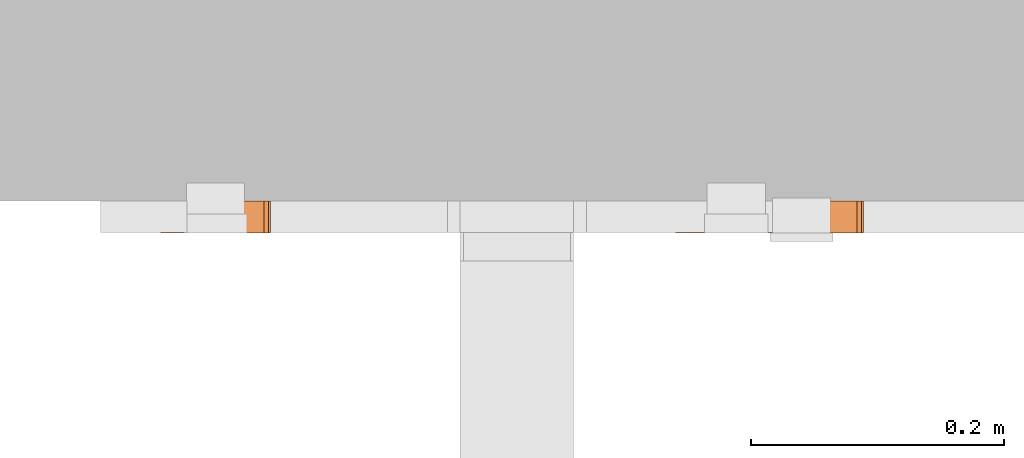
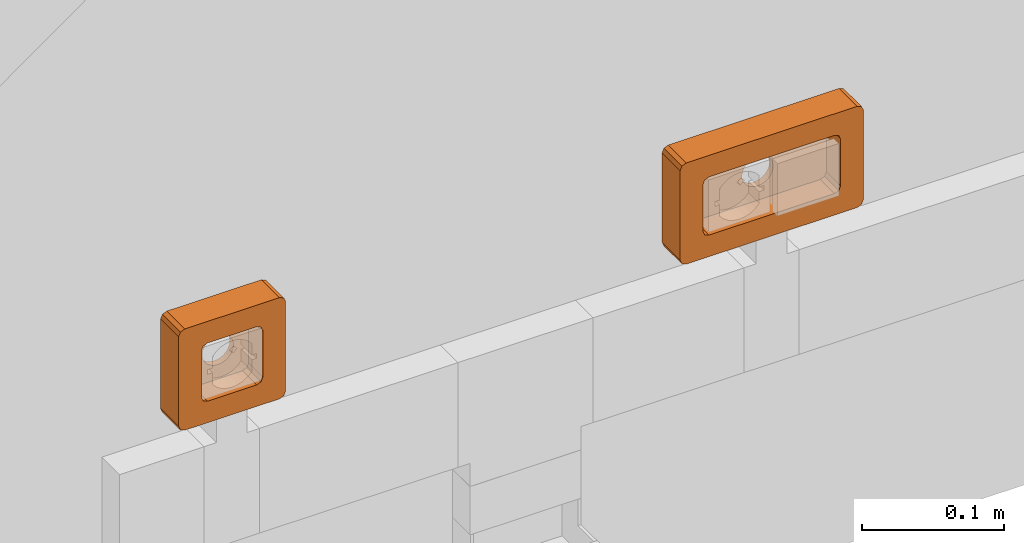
# One storey, part 42 of 87: 2 proxies.
"""IFC2X3 building model written with IfcOpenShell, lengths in millimetres."""

from ifc_helpers import new_model, entity, si_unit, converted_unit, derived_unit, direction, frame, origin, place, context, subcontext, project, spatial, faceted_brep, source, transform, mapped, material, type_object, type_shapes, element, save


model = new_model("IFC2X3")

# Units and contexts
model_context = context("Model", 3, precision=0.01, world=origin(), true_north=direction((6.12303176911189e-17, 1.0)))
body_context = subcontext(model_context, "Body", "Model", "MODEL_VIEW")
ifc_project = project(units=[si_unit("LENGTHUNIT", "METRE", prefix="MILLI"), si_unit("AREAUNIT", "SQUARE_METRE"), si_unit("VOLUMEUNIT", "CUBIC_METRE"), converted_unit("PLANEANGLEUNIT", "DEGREE", entity("IfcRatioMeasure", 0.0174532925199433), si_unit("PLANEANGLEUNIT", "RADIAN"), dimensions=[0, 0, 0, 0, 0, 0, 0]), si_unit("MASSUNIT", "GRAM", prefix="KILO"), derived_unit("MASSDENSITYUNIT", [(si_unit("MASSUNIT", "GRAM", prefix="KILO"), 1), (si_unit("LENGTHUNIT", "METRE"), -3)]), si_unit("TIMEUNIT", "SECOND"), si_unit("FREQUENCYUNIT", "HERTZ"), si_unit("THERMODYNAMICTEMPERATUREUNIT", "DEGREE_CELSIUS"), derived_unit("THERMALTRANSMITTANCEUNIT", [(si_unit("MASSUNIT", "GRAM", prefix="KILO"), 1), (si_unit("THERMODYNAMICTEMPERATUREUNIT", "KELVIN"), -1), (si_unit("TIMEUNIT", "SECOND"), -3)]), derived_unit("VOLUMETRICFLOWRATEUNIT", [(si_unit("LENGTHUNIT", "METRE"), 3), (si_unit("TIMEUNIT", "SECOND"), -1)]), si_unit("ELECTRICCURRENTUNIT", "AMPERE"), si_unit("ELECTRICVOLTAGEUNIT", "VOLT"), si_unit("POWERUNIT", "WATT"), si_unit("FORCEUNIT", "NEWTON", prefix="KILO"), si_unit("ILLUMINANCEUNIT", "LUX"), si_unit("LUMINOUSFLUXUNIT", "LUMEN"), si_unit("LUMINOUSINTENSITYUNIT", "CANDELA"), derived_unit("USERDEFINED", [(si_unit("MASSUNIT", "GRAM", prefix="KILO"), -1), (si_unit("LENGTHUNIT", "METRE"), -2), (si_unit("TIMEUNIT", "SECOND"), 3), (si_unit("LUMINOUSFLUXUNIT", "LUMEN"), 1)]), derived_unit("LINEARVELOCITYUNIT", [(si_unit("LENGTHUNIT", "METRE"), 1), (si_unit("TIMEUNIT", "SECOND"), -1)]), si_unit("PRESSUREUNIT", "PASCAL"), derived_unit("USERDEFINED", [(si_unit("LENGTHUNIT", "METRE"), -2), (si_unit("MASSUNIT", "GRAM", prefix="KILO"), 1), (si_unit("TIMEUNIT", "SECOND"), -2)])], contexts=[model_context])

# Site, building, storey
site_placement = place(None, origin())
site = spatial("IfcSite", under=ifc_project, at=site_placement, Name="Default", CompositionType="ELEMENT")
building_placement = place(site_placement, origin())
building = spatial("IfcBuilding", under=site, at=building_placement, Name="Наименование здания", CompositionType="ELEMENT")
storey_placement = place(building_placement, origin())
storey = spatial("IfcBuildingStorey", under=building, at=storey_placement, Name="Этаж 01", CompositionType="ELEMENT", Elevation=0.0)

# Proxies
ifc_material = material(Name="DKC_Пластик_Белый")
building_element_proxy_type_1 = type_object("IfcBuildingElementProxyType", Name="Белая", PredefinedType="NOTDEFINED", material=ifc_material)
shared_shape_1 = source(origin(), body_context, "Body", "Brep", [
    faceted_brep([(74.5000000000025, 0.0, 38.5000000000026), (73.0355339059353, 0.0, 42.0355339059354), (69.5000000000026, 0.0, 43.5000000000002), (54.5355339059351, 0.0, 23.5355339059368), (56.0, 0.0, 20.0), (56.0, 0.0, -20.0), (74.5000000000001, 0.0, -38.5000000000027), (51.0, 0.0, 25.0), (-51.0, 0.0, 25.0), (-69.5000000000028, 0.0, 43.5000000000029), (-54.5355339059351, 0.0, 23.5355339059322), (-74.5000000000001, 0.0, 38.5000000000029), (-73.0355339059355, 0.0, 42.0355339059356), (-56.0, 0.0, 20.0), (-56.0, 0.0, -20.0), (-74.5000000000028, 0.0, -38.5000000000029), (-54.5355339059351, 0.0, -23.5355339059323), (-69.5000000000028, 0.0, -43.5000000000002), (-73.0355339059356, 0.0, -42.0355339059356), (-51.0, 0.0, -25.0), (69.5000000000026, 0.0, -43.5000000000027), (73.0355339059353, 0.0, -42.0355339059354), (54.5355339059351, 0.0, -23.5355339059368), (51.0, 0.0, -25.0), (-73.0355339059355, 25.3999999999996, 42.0355339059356), (-69.5000000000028, 25.3999999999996, 43.5000000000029), (-74.5000000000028, 25.3999999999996, 38.5000000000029), (-12.2672579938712, 25.3999999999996, 3.28700187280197), (-10.9985226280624, 25.3999999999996, 6.34999999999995), (-8.9802561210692, 25.3999999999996, 8.98025612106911), (-6.35000000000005, 25.3999999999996, 10.9985226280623), (-3.28700187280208, 25.3999999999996, 12.2672579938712), (0.0, 25.3999999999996, 12.7), (69.5000000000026, 25.3999999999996, 43.5000000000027), (3.28700187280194, 25.3999999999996, 12.2672579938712), (6.34999999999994, 25.3999999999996, 10.9985226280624), (8.9802561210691, 25.3999999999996, 8.98025612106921), (10.9985226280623, 25.3999999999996, 6.35000000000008), (12.2672579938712, 25.3999999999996, 3.2870018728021), (74.5000000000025, 25.3999999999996, 38.5000000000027), (73.0355339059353, 25.3999999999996, 42.0355339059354), (12.7, 25.3999999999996, 0.0), (74.5000000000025, 25.3999999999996, -38.5000000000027), (12.2672579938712, 25.3999999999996, -3.28700187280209), (69.5000000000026, 25.3999999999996, -43.5000000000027), (73.0355339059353, 25.3999999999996, -42.0355339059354), (10.9985226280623, 25.3999999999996, -6.35000000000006), (8.9802561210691, 25.3999999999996, -8.98025612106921), (6.34999999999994, 25.3999999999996, -10.9985226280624), (3.28700187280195, 25.3999999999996, -12.2672579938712), (0.0, 25.3999999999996, -12.7), (-69.5000000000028, 25.3999999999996, -43.5000000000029), (-3.28700187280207, 25.3999999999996, -12.2672579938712), (-6.35000000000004, 25.3999999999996, -10.9985226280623), (-8.98025612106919, 25.3999999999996, -8.98025612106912), (-10.9985226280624, 25.3999999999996, -6.34999999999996), (-12.2672579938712, 25.3999999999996, -3.28700187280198), (-74.5000000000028, 25.3999999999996, -38.5000000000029), (-73.0355339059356, 25.3999999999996, -42.0355339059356), (-12.7, 25.3999999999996, 0.0), (-56.0, 20.0, 20.0), (-51.0, 20.0, 25.0), (-54.5355339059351, 20.0, 23.5355339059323), (-12.2672579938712, 20.0, 3.28700187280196), (-12.7, 20.0, 0.0), (-56.0, 20.0, -20.0), (-12.2672579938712, 20.0, -3.28700187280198), (-51.0, 20.0, -25.0), (-54.5355339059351, 20.0, -23.5355339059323), (-10.9985226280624, 20.0, -6.34999999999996), (-8.98025612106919, 20.0, -8.98025612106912), (-6.35000000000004, 20.0, -10.9985226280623), (-3.28700187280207, 20.0, -12.2672579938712), (0.0, 20.0, -12.7), (51.0, 20.0, -25.0), (3.28700187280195, 20.0, -12.2672579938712), (6.34999999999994, 20.0, -10.9985226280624), (8.98025612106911, 20.0, -8.9802561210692), (10.9985226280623, 20.0, -6.35000000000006), (12.2672579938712, 20.0, -3.28700187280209), (56.0, 20.0, -20.0), (54.5355339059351, 20.0, -23.5355339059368), (12.7, 20.0, 0.0), (56.0, 20.0, 20.0), (12.2672579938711, 20.0, 3.2870018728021), (51.0, 20.0, 25.0), (54.5355339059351, 20.0, 23.5355339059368), (0.0, 20.0, 12.7), (10.9985226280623, 20.0, 6.35000000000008), (8.9802561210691, 20.0, 8.98025612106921), (6.34999999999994, 20.0, 10.9985226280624), (3.28700187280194, 20.0, 12.2672579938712), (-10.9985226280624, 20.0, 6.34999999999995), (-8.9802561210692, 20.0, 8.98025612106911), (-6.35000000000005, 20.0, 10.9985226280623), (-3.28700187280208, 20.0, 12.2672579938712)], [[[0, 1, 2]], [[0, 2, 3]], [[3, 4, 0]], [[0, 4, 5]], [[6, 0, 5]], [[7, 3, 2]], [[2, 8, 7]], [[8, 2, 9]], [[10, 8, 9]], [[9, 11, 10]], [[9, 12, 11]], [[13, 10, 11]], [[13, 11, 14]], [[14, 11, 15]], [[16, 14, 15]], [[15, 17, 16]], [[17, 15, 18]], [[19, 16, 17]], [[19, 17, 20]], [[6, 20, 21]], [[20, 6, 22]], [[22, 23, 20]], [[20, 23, 19]], [[5, 22, 6]], [[24, 25, 26]], [[27, 26, 25]], [[25, 28, 27]], [[29, 28, 25]], [[30, 29, 25]], [[31, 30, 25]], [[32, 31, 25]], [[25, 33, 32]], [[34, 32, 33]], [[35, 34, 33]], [[35, 33, 36]], [[37, 36, 33]], [[33, 38, 37]], [[39, 38, 33]], [[33, 40, 39]], [[38, 39, 41]], [[41, 39, 42]], [[43, 41, 42]], [[42, 44, 43]], [[44, 42, 45]], [[46, 43, 44]], [[46, 44, 47]], [[48, 47, 44]], [[48, 44, 49]], [[50, 49, 44]], [[50, 44, 51]], [[51, 52, 50]], [[53, 52, 51]], [[54, 53, 51]], [[55, 54, 51]], [[56, 55, 51]], [[51, 57, 56]], [[51, 58, 57]], [[59, 57, 26]], [[57, 59, 56]], [[26, 27, 59]], [[9, 2, 33, 25]], [[9, 25, 24, 12]], [[24, 26, 11, 12]], [[15, 11, 26, 57]], [[15, 57, 58, 18]], [[58, 51, 17, 18]], [[20, 17, 51, 44]], [[20, 44, 45, 21]], [[45, 42, 6, 21]], [[0, 6, 42, 39]], [[0, 39, 40, 1]], [[40, 33, 2, 1]], [[60, 61, 62]], [[61, 60, 63]], [[64, 63, 60]], [[60, 65, 64]], [[66, 64, 65]], [[66, 65, 67]], [[65, 68, 67]], [[67, 69, 66]], [[67, 70, 69]], [[67, 71, 70]], [[67, 72, 71]], [[73, 72, 67]], [[67, 74, 73]], [[74, 75, 73]], [[75, 74, 76]], [[74, 77, 76]], [[77, 74, 78]], [[74, 79, 78]], [[79, 74, 80]], [[81, 80, 74]], [[80, 82, 79]], [[80, 83, 82]], [[82, 83, 84]], [[85, 84, 83]], [[83, 86, 85]], [[87, 85, 61]], [[88, 84, 85]], [[85, 89, 88]], [[89, 85, 90]], [[85, 91, 90]], [[85, 87, 91]], [[63, 92, 61]], [[61, 92, 93]], [[61, 93, 94]], [[61, 94, 95]], [[61, 95, 87]], [[85, 7, 8, 61]], [[10, 62, 61, 8]], [[13, 60, 62, 10]], [[60, 13, 14, 65]], [[16, 68, 65, 14]], [[19, 67, 68, 16]], [[67, 19, 23, 74]], [[22, 81, 74, 23]], [[5, 80, 81, 22]], [[80, 5, 4, 83]], [[3, 86, 83, 4]], [[7, 85, 86, 3]], [[59, 64, 66, 56]], [[56, 66, 69, 55]], [[53, 54, 70, 71]], [[70, 54, 55, 69]], [[52, 53, 71, 72]], [[52, 72, 73, 50]], [[50, 73, 75, 49]], [[49, 75, 76, 48]], [[46, 47, 77, 78]], [[77, 47, 48, 76]], [[43, 46, 78, 79]], [[43, 79, 82, 41]], [[41, 82, 84, 38]], [[38, 84, 88, 37]], [[35, 36, 89, 90]], [[89, 36, 37, 88]], [[34, 35, 90, 91]], [[34, 91, 87, 32]], [[32, 87, 95, 31]], [[31, 95, 94, 30]], [[28, 29, 93, 92]], [[93, 29, 30, 94]], [[27, 28, 92, 63]], [[27, 63, 64, 59]]]),
])
type_shapes(building_element_proxy_type_1, [shared_shape_1])
proxy_1_placement = place(storey_placement, frame((-15207.2658098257, -3998.28925968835, 350.0)))
element("IfcBuildingElementProxy", 1, at=proxy_1_placement, inside=storey, type_object=building_element_proxy_type_1, material=ifc_material, Name="КНС_КоробкаМонтажнаяПод4МодуляЭлектроустановочныхИзделийPDD-N120_ILF_DKC:Белая", ObjectType="Белая", context=body_context, shape_type="MappedRepresentation", body=[
    mapped(shared_shape_1, transform((0.0, 0.0, 0.0), scale=1.0)),
])
building_element_proxy_type_2 = type_object("IfcBuildingElementProxyType", Name="Белая", PredefinedType="NOTDEFINED", material=ifc_material)
shared_shape_2 = source(origin(), body_context, "Body", "Brep", [
    faceted_brep([(43.5000000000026, 0.0, 38.4999999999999), (42.0355339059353, 0.0, 42.0355339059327), (38.5000000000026, 0.0, 43.4999999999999), (23.5355339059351, 0.0, 23.5355339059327), (25.0, 0.0, 20.0), (25.0, 0.0, -20.0), (43.5000000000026, 0.0, -38.4999999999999), (20.0, 0.0, 25.0), (-20.0, 0.0, 25.0), (-38.5000000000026, 0.0, 43.4999999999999), (-23.5355339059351, 0.0, 23.5355339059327), (-43.5000000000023, 0.0, 38.4999999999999), (-42.0355339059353, 0.0, 42.0355339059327), (-25.0, 0.0, 20.0), (-25.0, 0.0, -20.0), (-43.5000000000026, 0.0, -38.4999999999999), (-23.5355339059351, 0.0, -23.5355339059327), (-38.5000000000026, 0.0, -43.4999999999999), (-42.0355339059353, 0.0, -42.0355339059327), (-20.0, 0.0, -25.0), (38.5000000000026, 0.0, -43.4999999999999), (42.0355339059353, 0.0, -42.0355339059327), (23.5355339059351, 0.0, -23.5355339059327), (20.0, 0.0, -25.0), (-42.0355339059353, 25.3999999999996, 42.0355339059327), (-38.5000000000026, 25.3999999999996, 43.4999999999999), (-43.5000000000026, 25.3999999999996, 38.4999999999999), (-8.98025612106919, 25.3999999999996, 8.98025612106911), (-6.35000000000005, 25.3999999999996, 10.9985226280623), (-3.28700187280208, 25.3999999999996, 12.2672579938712), (0.0, 25.3999999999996, 12.7), (38.5000000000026, 25.3999999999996, 43.4999999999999), (3.28700187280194, 25.3999999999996, 12.2672579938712), (6.34999999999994, 25.3999999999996, 10.9985226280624), (8.9802561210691, 25.3999999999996, 8.98025612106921), (43.5000000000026, 25.3999999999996, 38.4999999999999), (42.0355339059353, 25.3999999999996, 42.0355339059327), (10.9985226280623, 25.3999999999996, 6.35000000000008), (12.2672579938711, 25.3999999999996, 3.2870018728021), (12.7, 25.3999999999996, 0.0), (43.5000000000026, 25.3999999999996, -38.4999999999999), (12.2672579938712, 25.3999999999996, -3.28700187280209), (10.9985226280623, 25.3999999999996, -6.35000000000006), (8.98025612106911, 25.3999999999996, -8.98025612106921), (38.5000000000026, 25.3999999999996, -43.4999999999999), (42.0355339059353, 25.3999999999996, -42.0355339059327), (6.34999999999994, 25.3999999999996, -10.9985226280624), (3.28700187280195, 25.3999999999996, -12.2672579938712), (0.0, 25.3999999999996, -12.7), (-38.5000000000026, 25.3999999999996, -43.4999999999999), (-3.28700187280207, 25.3999999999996, -12.2672579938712), (-6.35000000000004, 25.3999999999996, -10.9985226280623), (-8.98025612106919, 25.3999999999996, -8.98025612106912), (-43.5000000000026, 25.3999999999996, -38.4999999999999), (-42.0355339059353, 25.3999999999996, -42.0355339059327), (-12.7, 25.3999999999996, 0.0), (-12.2672579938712, 25.3999999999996, -3.28700187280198), (-10.9985226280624, 25.3999999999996, -6.34999999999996), (-10.9985226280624, 25.3999999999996, 6.34999999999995), (-12.2672579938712, 25.3999999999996, 3.28700187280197), (-25.0, 20.0, 20.0), (-20.0, 20.0, 25.0), (-23.5355339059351, 20.0, 23.5355339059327), (-8.98025612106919, 20.0, 8.98025612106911), (-10.9985226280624, 20.0, 6.34999999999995), (-12.2672579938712, 20.0, 3.28700187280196), (-12.7, 20.0, 0.0), (-25.0, 20.0, -20.0), (-12.2672579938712, 20.0, -3.28700187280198), (-10.9985226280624, 20.0, -6.34999999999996), (-8.98025612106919, 20.0, -8.98025612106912), (-20.0, 20.0, -25.0), (-23.5355339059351, 20.0, -23.5355339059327), (-6.35000000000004, 20.0, -10.9985226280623), (-3.28700187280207, 20.0, -12.2672579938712), (0.0, 20.0, -12.7), (20.0, 20.0, -25.0), (3.28700187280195, 20.0, -12.2672579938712), (6.34999999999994, 20.0, -10.9985226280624), (8.98025612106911, 20.0, -8.9802561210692), (25.0, 20.0, -20.0), (23.5355339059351, 20.0, -23.5355339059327), (10.9985226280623, 20.0, -6.35000000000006), (12.2672579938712, 20.0, -3.28700187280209), (12.7, 20.0, 0.0), (25.0, 20.0, 20.0), (12.2672579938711, 20.0, 3.2870018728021), (10.9985226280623, 20.0, 6.35000000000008), (8.9802561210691, 20.0, 8.98025612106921), (20.0, 20.0, 25.0), (23.5355339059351, 20.0, 23.5355339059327), (0.0, 20.0, 12.7), (6.34999999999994, 20.0, 10.9985226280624), (3.28700187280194, 20.0, 12.2672579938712), (-6.35000000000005, 20.0, 10.9985226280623), (-3.28700187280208, 20.0, 12.2672579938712)], [[[0, 1, 2]], [[0, 2, 3]], [[3, 4, 0]], [[0, 4, 5]], [[6, 0, 5]], [[7, 3, 2]], [[2, 8, 7]], [[8, 2, 9]], [[10, 8, 9]], [[9, 11, 10]], [[9, 12, 11]], [[13, 10, 11]], [[13, 11, 14]], [[14, 11, 15]], [[16, 14, 15]], [[15, 17, 16]], [[17, 15, 18]], [[19, 16, 17]], [[19, 17, 20]], [[6, 20, 21]], [[20, 6, 22]], [[22, 23, 20]], [[20, 23, 19]], [[5, 22, 6]], [[24, 25, 26]], [[26, 25, 27]], [[28, 27, 25]], [[29, 28, 25]], [[30, 29, 25]], [[25, 31, 30]], [[32, 30, 31]], [[33, 32, 31]], [[33, 31, 34]], [[35, 34, 31]], [[31, 36, 35]], [[37, 34, 35]], [[38, 37, 35]], [[38, 35, 39]], [[39, 35, 40]], [[41, 39, 40]], [[42, 41, 40]], [[40, 43, 42]], [[44, 43, 40]], [[44, 40, 45]], [[46, 43, 44]], [[46, 44, 47]], [[48, 47, 44]], [[48, 44, 49]], [[49, 50, 48]], [[51, 50, 49]], [[52, 51, 49]], [[49, 53, 52]], [[49, 54, 53]], [[55, 53, 26]], [[53, 55, 56]], [[56, 57, 53]], [[57, 52, 53]], [[27, 58, 26]], [[58, 59, 26]], [[26, 59, 55]], [[9, 2, 31, 25]], [[9, 25, 24, 12]], [[24, 26, 11, 12]], [[15, 11, 26, 53]], [[15, 53, 54, 18]], [[54, 49, 17, 18]], [[20, 17, 49, 44]], [[20, 44, 45, 21]], [[45, 40, 6, 21]], [[0, 6, 40, 35]], [[0, 35, 36, 1]], [[36, 31, 2, 1]], [[60, 61, 62]], [[63, 61, 60]], [[60, 64, 63]], [[60, 65, 64]], [[66, 65, 60]], [[60, 67, 66]], [[68, 66, 67]], [[67, 69, 68]], [[67, 70, 69]], [[70, 67, 71]], [[67, 72, 71]], [[71, 73, 70]], [[71, 74, 73]], [[75, 74, 71]], [[71, 76, 75]], [[76, 77, 75]], [[77, 76, 78]], [[76, 79, 78]], [[80, 79, 76]], [[81, 80, 76]], [[82, 79, 80]], [[80, 83, 82]], [[80, 84, 83]], [[80, 85, 84]], [[84, 85, 86]], [[85, 87, 86]], [[85, 88, 87]], [[89, 88, 85]], [[85, 90, 89]], [[91, 89, 61]], [[88, 89, 92]], [[89, 93, 92]], [[89, 91, 93]], [[61, 63, 94]], [[61, 94, 95]], [[61, 95, 91]], [[89, 7, 8, 61]], [[10, 62, 61, 8]], [[13, 60, 62, 10]], [[60, 13, 14, 67]], [[16, 72, 67, 14]], [[19, 71, 72, 16]], [[71, 19, 23, 76]], [[22, 81, 76, 23]], [[5, 80, 81, 22]], [[80, 5, 4, 85]], [[3, 90, 85, 4]], [[7, 89, 90, 3]], [[55, 66, 68, 56]], [[56, 68, 69, 57]], [[51, 52, 70, 73]], [[70, 52, 57, 69]], [[50, 51, 73, 74]], [[50, 74, 75, 48]], [[48, 75, 77, 47]], [[47, 77, 78, 46]], [[42, 43, 79, 82]], [[79, 43, 46, 78]], [[41, 42, 82, 83]], [[41, 83, 84, 39]], [[39, 84, 86, 38]], [[38, 86, 87, 37]], [[33, 34, 88, 92]], [[88, 34, 37, 87]], [[32, 33, 92, 93]], [[32, 93, 91, 30]], [[30, 91, 95, 29]], [[29, 95, 94, 28]], [[58, 27, 63, 64]], [[63, 27, 28, 94]], [[59, 58, 64, 65]], [[59, 65, 66, 55]]]),
])
type_shapes(building_element_proxy_type_2, [shared_shape_2])
proxy_2_placement = place(storey_placement, frame((-15645.9658098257, -3998.28925968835, 350.0)))
element("IfcBuildingElementProxy", 2, at=proxy_2_placement, inside=storey, type_object=building_element_proxy_type_2, material=ifc_material, Name="КНС_КоробкаМонтажнаяПод2МодуляЭлектроустановочныхИзделийPDD-N60_ILF_DKC:Белая", ObjectType="Белая", context=body_context, shape_type="MappedRepresentation", body=[
    mapped(shared_shape_2, transform((0.0, 0.0, 0.0), scale=1.0)),
])

save(model, "model.ifc")
